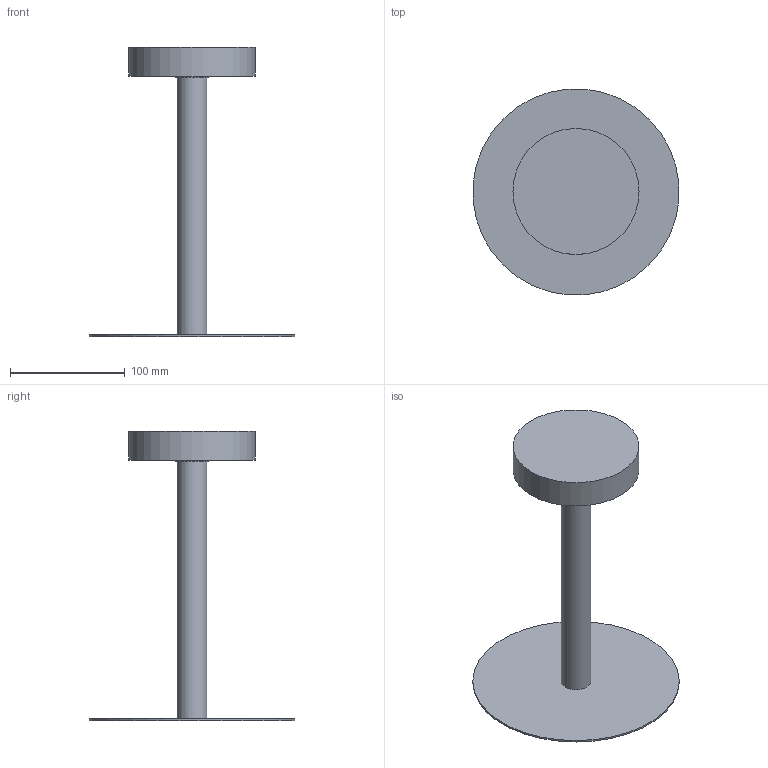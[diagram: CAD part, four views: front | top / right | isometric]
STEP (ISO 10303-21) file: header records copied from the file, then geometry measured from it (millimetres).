
FILE_DESCRIPTION(/* description */ (''),/* implementation_level */ '2;1');
FILE_NAME(/* name */ 'C:\Users\A.Cavazzi\Desktop\CAD 3D\EU\1897 - TETATET FLÛTE\1897 - TETATET FLÛTE.stp',/* time_stamp */ '2019-11-04T10:28:33+01:00',/* author */ ('AC'),/* organization */ (''),/* preprocessor_version */ 'ST-DEVELOPER v17.2',/* originating_system */ 'Autodesk Inventor 2019',/* authorisation */ '');
FILE_SCHEMA (('AUTOMOTIVE_DESIGN { 1 0 10303 214 3 1 1 }'));
Length unit declared in the file: millimetre
Products named in the file (1): Parte1
Bounding box: 179.34 x 179.34 x 252.2 mm (x, y, z)
Volume: 228429.7 mm3; surface area: 124922.4 mm2
Topology: 2 solids, 3 shells, 57 faces, 138 edges, 94 vertices
Faces by surface type: cylinder 30, plane 21, cone 6
Full cylindrical faces by diameter (mm): 2.459 x4, 18 x1, 20.4 x1, 25 x1, 26 x1, 26.5 x1, 29 x1, 104.5 x1, 105 x1, 110 x1, 180 x1
Entity records: 1843 total; most frequent: DIRECTION 324, CARTESIAN_POINT 286, ORIENTED_EDGE 268, EDGE_CURVE 134, AXIS2_PLACEMENT_3D 132, VERTEX_POINT 94, CIRCLE 74, EDGE_LOOP 68
